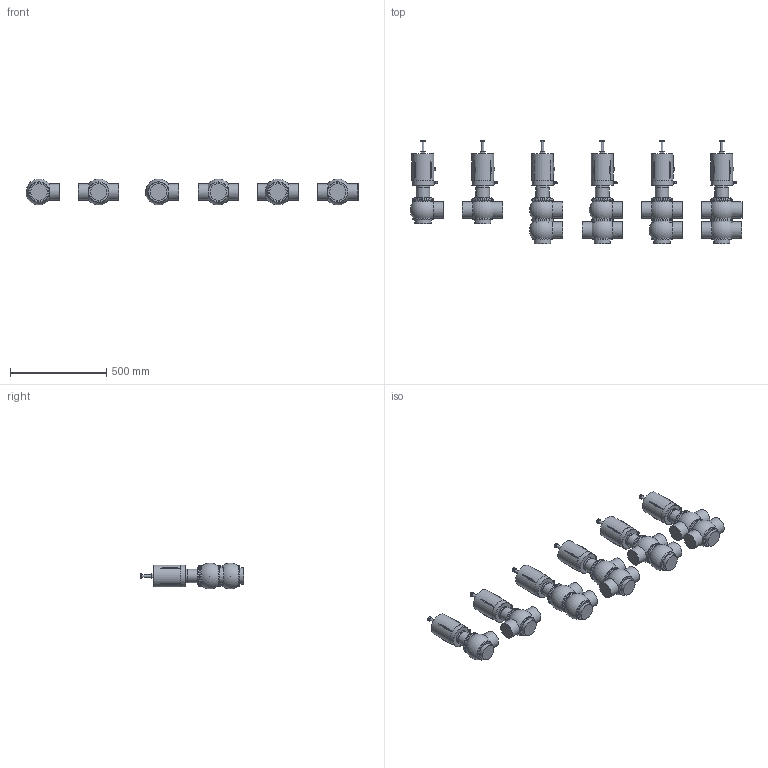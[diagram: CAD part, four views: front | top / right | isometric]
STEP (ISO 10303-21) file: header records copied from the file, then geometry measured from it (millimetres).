
FILE_DESCRIPTION((''),'2;1');
FILE_NAME('\\BV-SRV1\Ufficio tecnico\cad3d\PNEUMATICA\Ing1-1\pne bbzp e derivate\BBZS5\BBZS5-DN080-CIL108-SAL.iam.step','2009-10-19T10:18:09',(''),(''),'Autodesk Inventor 2010','Autodesk Inventor 2010','');
FILE_SCHEMA(('AUTOMOTIVE_DESIGN { 1 0 10303 214 1 1 1 1 }'));
Length unit declared in the file: millimetre
Products named in the file (7): BBZS5-DN080-CIL108-SAL; Assemblaggio-DN080; COR-INF-L-SAL-DN80; COR-INF-T-SAL-DN80; COR-SUP-L-SAL-DN80; COR-SUP-T-SAL-DN80; cil 108 tarabile
Assembly tree (22 placements, depth 2):
  BBZS5-DN080-CIL108-SAL
    Assemblaggio-DN080  x6
    COR-INF-L-SAL-DN80  x3
    COR-INF-T-SAL-DN80  x3
    COR-SUP-L-SAL-DN80  x2
    COR-SUP-T-SAL-DN80  x2
    cil 108 tarabile  x6
Bounding box: 1722.25 x 537.2 x 134.5 mm (x, y, z)
Volume: 28979222.7 mm3; surface area: 1602507.9 mm2
Topology: 28 solids, 28 shells, 1271 faces, 3092 edges, 1848 vertices
Faces by surface type: plane 473, cylinder 283, cone 260, bspline 120, sphere 87, torus 48
Full cylindrical faces by diameter (mm): 4.9 x6, 6 x12, 7 x6, 8.3 x6, 10 x6, 11 x6, 11.5 x6, 14 x6, 19.37 x6, 69 x6, 71 x6, 85 x21, 105 x26, 113 x20, 113.5 x6, 114.5 x6
Entity records: 7414 total; most frequent: CARTESIAN_POINT 2019, DIRECTION 1064, ORIENTED_EDGE 938, EDGE_CURVE 469, AXIS2_PLACEMENT_3D 454, EDGE_LOOP 335, VERTEX_POINT 318, FACE_OUTER_BOUND 242
